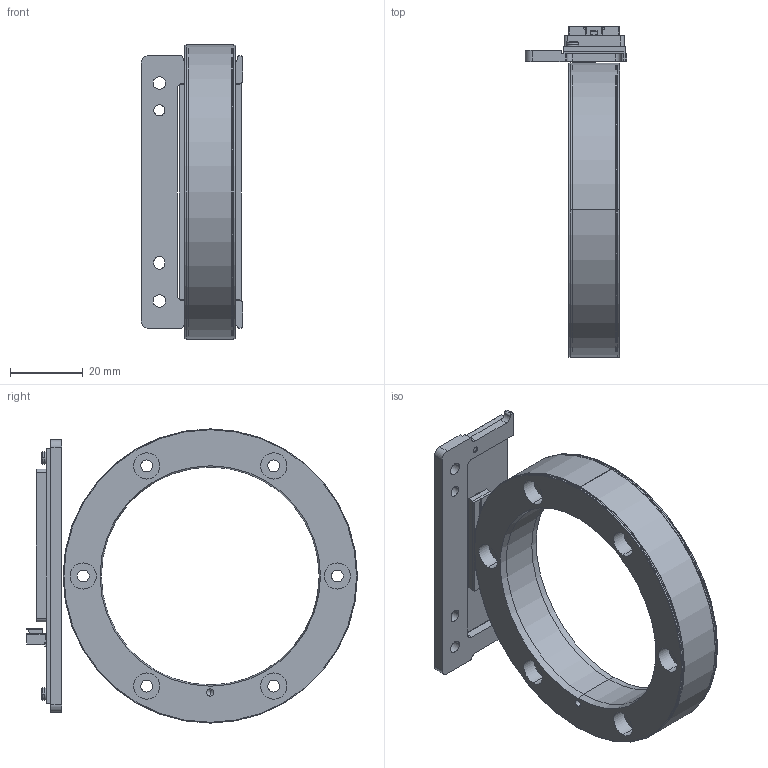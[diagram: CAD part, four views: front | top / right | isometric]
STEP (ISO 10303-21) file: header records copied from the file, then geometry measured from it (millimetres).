
FILE_DESCRIPTION (( 'STEP AP203' ), '1' );
FILE_NAME ('Plošèica+ring.STEP', '2025-07-14T07:56:50', ( '' ), ( '' ), 'SwSTEP 2.0', 'SolidWorks 2024', '' );
FILE_SCHEMA (( 'CONFIG_CONTROL_DESIGN' ));
Length unit declared in the file: millimetre
Products named in the file (1): Ploščica+ring
Bounding box: 28 x 91.1 x 81.05 mm (x, y, z)
Surface area: 34111.7 mm2 (no closed solid volume)
Topology: 0 solids, 92 shells, 1742 faces, 4411 edges, 2906 vertices
Faces by surface type: plane 1314, cylinder 193, bspline 137, torus 58, cone 36, sphere 4
Entity records: 58943 total; most frequent: CARTESIAN_POINT 18317, ORIENTED_EDGE 8668, DIRECTION 7480, EDGE_CURVE 4402, VECTOR 3168, LINE 3168, VERTEX_POINT 2906, AXIS2_PLACEMENT_3D 2156
